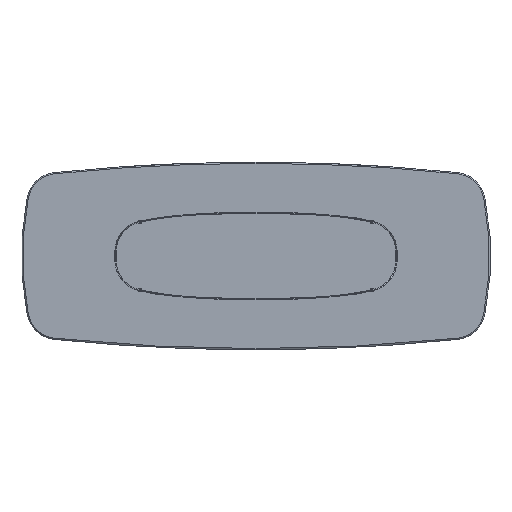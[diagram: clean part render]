
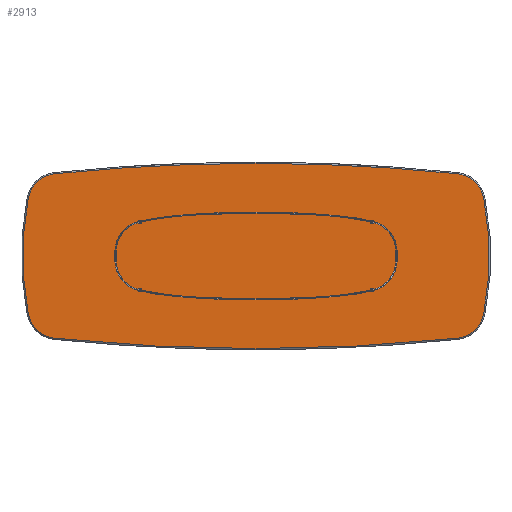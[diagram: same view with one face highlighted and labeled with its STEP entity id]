
A CAD part, front view. The second image highlights one B-rep face of the part: STEP entity #2913.
In plain terms, the highlighted planar face has unit normal (0, -1, 0).
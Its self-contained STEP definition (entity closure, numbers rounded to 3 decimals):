
#610 = ORIENTED_EDGE ( 'NONE', *, *, #14585, .T. ) ;
#637 = CIRCLE ( 'NONE', #10516, 1892. ) ;
#821 = EDGE_CURVE ( 'NONE', #7550, #11125, #5707, .T. ) ;
#1005 = VERTEX_POINT ( 'NONE', #14855 ) ;
#1390 = CARTESIAN_POINT ( 'NONE',  ( -1454.991, 0., 372.386 ) ) ;
#1748 = CIRCLE ( 'NONE', #4265, 12492. ) ;
#1829 = CARTESIAN_POINT ( 'NONE',  ( -400., 0., 0. ) ) ;
#1966 = DIRECTION ( 'NONE',  ( 0., 0., 1. ) ) ;
#2225 = CARTESIAN_POINT ( 'NONE',  ( 0., 0., 11900. ) ) ;
#2244 = CARTESIAN_POINT ( 'NONE',  ( 400., 0., 0. ) ) ;
#2436 = ORIENTED_EDGE ( 'NONE', *, *, #12099, .T. ) ;
#2585 = VERTEX_POINT ( 'NONE', #10952 ) ;
#2666 = ORIENTED_EDGE ( 'NONE', *, *, #6804, .T. ) ;
#2913 = ADVANCED_FACE ( 'NONE', ( #3808 ), #5128, .F. ) ;
#2964 = CARTESIAN_POINT ( 'NONE',  ( 1286.52, 0., -525.576 ) ) ;
#3168 = AXIS2_PLACEMENT_3D ( 'NONE', #8043, #10526, #13509 ) ;
#3175 = CARTESIAN_POINT ( 'NONE',  ( -1454.991, 0., -372.386 ) ) ;
#3750 = AXIS2_PLACEMENT_3D ( 'NONE', #14624, #5179, #6591 ) ;
#3770 = ORIENTED_EDGE ( 'NONE', *, *, #821, .T. ) ;
#3808 = FACE_OUTER_BOUND ( 'NONE', #7753, .T. ) ;
#3972 = CIRCLE ( 'NONE', #16117, 12492. ) ;
#4265 = AXIS2_PLACEMENT_3D ( 'NONE', #4847, #7320, #9969 ) ;
#4346 = EDGE_CURVE ( 'NONE', #11125, #6486, #637, .T. ) ;
#4847 = CARTESIAN_POINT ( 'NONE',  ( 0., 0., -11900. ) ) ;
#4978 = DIRECTION ( 'NONE',  ( 0., 0., 1. ) ) ;
#5128 = PLANE ( 'NONE',  #3168 ) ;
#5179 = DIRECTION ( 'NONE',  ( 0., -1., 0. ) ) ;
#5472 = CIRCLE ( 'NONE', #7756, 1892. ) ;
#5707 = CIRCLE ( 'NONE', #6562, 192. ) ;
#5911 = CIRCLE ( 'NONE', #6207, 192. ) ;
#6204 = CARTESIAN_POINT ( 'NONE',  ( -1266.747, 0., 334.597 ) ) ;
#6207 = AXIS2_PLACEMENT_3D ( 'NONE', #6550, #14582, #7877 ) ;
#6486 = VERTEX_POINT ( 'NONE', #3175 ) ;
#6550 = CARTESIAN_POINT ( 'NONE',  ( 1266.747, 0., 334.597 ) ) ;
#6562 = AXIS2_PLACEMENT_3D ( 'NONE', #6204, #7883, #4978 ) ;
#6591 = DIRECTION ( 'NONE',  ( 0., 0., 1. ) ) ;
#6638 = EDGE_CURVE ( 'NONE', #8703, #7275, #3972, .T. ) ;
#6804 = EDGE_CURVE ( 'NONE', #7275, #7550, #1748, .T. ) ;
#6839 = CARTESIAN_POINT ( 'NONE',  ( 1266.747, 0., -334.597 ) ) ;
#6993 = ORIENTED_EDGE ( 'NONE', *, *, #4346, .T. ) ;
#7275 = VERTEX_POINT ( 'NONE', #9407 ) ;
#7320 = DIRECTION ( 'NONE',  ( 0., -1., 0. ) ) ;
#7370 = VERTEX_POINT ( 'NONE', #8699 ) ;
#7433 = AXIS2_PLACEMENT_3D ( 'NONE', #2225, #7616, #11684 ) ;
#7528 = ORIENTED_EDGE ( 'NONE', *, *, #17198, .T. ) ;
#7550 = VERTEX_POINT ( 'NONE', #11052 ) ;
#7616 = DIRECTION ( 'NONE',  ( 0., -1., 0. ) ) ;
#7753 = EDGE_LOOP ( 'NONE', ( #15600, #16318, #2436, #610, #7528, #11403, #2666, #3770, #6993 ) ) ;
#7756 = AXIS2_PLACEMENT_3D ( 'NONE', #1829, #16835, #8876 ) ;
#7877 = DIRECTION ( 'NONE',  ( 0., 0., 1. ) ) ;
#7883 = DIRECTION ( 'NONE',  ( 0., -1., 0. ) ) ;
#8043 = CARTESIAN_POINT ( 'NONE',  ( -200., 0., 5950. ) ) ;
#8699 = CARTESIAN_POINT ( 'NONE',  ( -1286.52, 0., -525.576 ) ) ;
#8703 = VERTEX_POINT ( 'NONE', #13484 ) ;
#8858 = CIRCLE ( 'NONE', #14760, 192. ) ;
#8876 = DIRECTION ( 'NONE',  ( 0., 0., 1. ) ) ;
#9407 = CARTESIAN_POINT ( 'NONE',  ( 0., 0., 592. ) ) ;
#9969 = DIRECTION ( 'NONE',  ( 0., 0., 1. ) ) ;
#10456 = DIRECTION ( 'NONE',  ( 0., 0., 1. ) ) ;
#10516 = AXIS2_PLACEMENT_3D ( 'NONE', #2244, #17437, #10456 ) ;
#10526 = DIRECTION ( 'NONE',  ( 0., 1., 0. ) ) ;
#10952 = CARTESIAN_POINT ( 'NONE',  ( 1454.991, 0., -372.386 ) ) ;
#11052 = CARTESIAN_POINT ( 'NONE',  ( -1286.52, 0., 525.576 ) ) ;
#11125 = VERTEX_POINT ( 'NONE', #1390 ) ;
#11265 = EDGE_CURVE ( 'NONE', #6486, #7370, #17296, .T. ) ;
#11317 = DIRECTION ( 'NONE',  ( 0., -1., 0. ) ) ;
#11403 = ORIENTED_EDGE ( 'NONE', *, *, #6638, .T. ) ;
#11513 = VERTEX_POINT ( 'NONE', #2964 ) ;
#11684 = DIRECTION ( 'NONE',  ( 0., 0., 1. ) ) ;
#12099 = EDGE_CURVE ( 'NONE', #11513, #2585, #8858, .T. ) ;
#12234 = DIRECTION ( 'NONE',  ( 0., -1., 0. ) ) ;
#12592 = EDGE_CURVE ( 'NONE', #7370, #11513, #15900, .T. ) ;
#12672 = DIRECTION ( 'NONE',  ( 0., 0., 1. ) ) ;
#13484 = CARTESIAN_POINT ( 'NONE',  ( 1286.52, 0., 525.576 ) ) ;
#13509 = DIRECTION ( 'NONE',  ( 0., 0., 1. ) ) ;
#14582 = DIRECTION ( 'NONE',  ( 0., -1., 0. ) ) ;
#14585 = EDGE_CURVE ( 'NONE', #2585, #1005, #5472, .T. ) ;
#14624 = CARTESIAN_POINT ( 'NONE',  ( -1266.747, 0., -334.597 ) ) ;
#14760 = AXIS2_PLACEMENT_3D ( 'NONE', #6839, #12234, #12672 ) ;
#14855 = CARTESIAN_POINT ( 'NONE',  ( 1454.991, 0., 372.386 ) ) ;
#15600 = ORIENTED_EDGE ( 'NONE', *, *, #11265, .T. ) ;
#15900 = CIRCLE ( 'NONE', #7433, 12492. ) ;
#16117 = AXIS2_PLACEMENT_3D ( 'NONE', #16976, #11317, #1966 ) ;
#16318 = ORIENTED_EDGE ( 'NONE', *, *, #12592, .T. ) ;
#16835 = DIRECTION ( 'NONE',  ( 0., -1., 0. ) ) ;
#16976 = CARTESIAN_POINT ( 'NONE',  ( 0., 0., -11900. ) ) ;
#17198 = EDGE_CURVE ( 'NONE', #1005, #8703, #5911, .T. ) ;
#17296 = CIRCLE ( 'NONE', #3750, 192. ) ;
#17437 = DIRECTION ( 'NONE',  ( 0., -1., 0. ) ) ;
